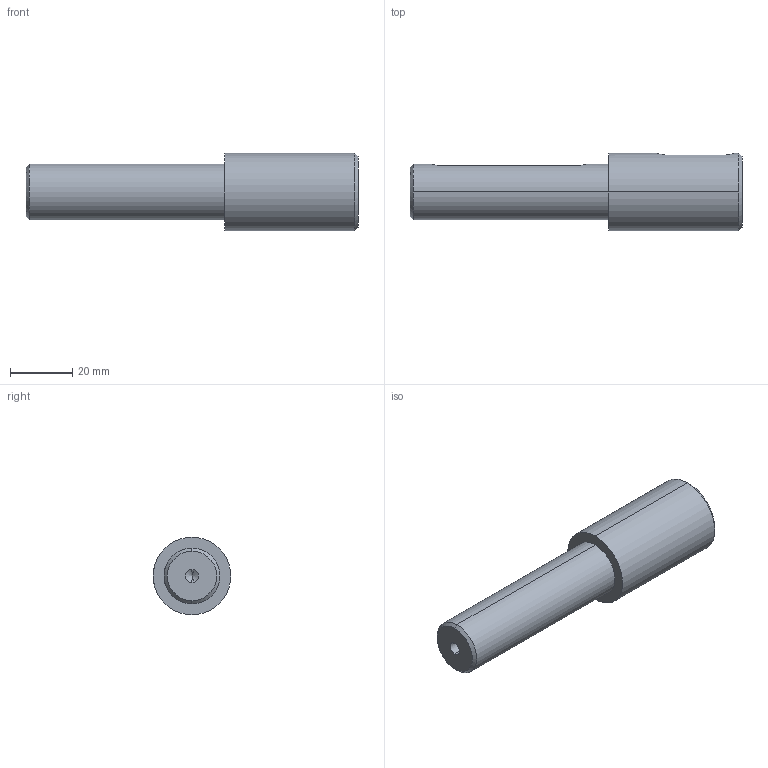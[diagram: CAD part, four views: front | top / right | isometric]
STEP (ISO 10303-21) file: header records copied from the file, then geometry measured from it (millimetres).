
FILE_DESCRIPTION (( 'STEP AP203' ), '1' );
FILE_NAME ('084.813.004.STEP', '2013-01-29T13:20:19', ( 'Alusic' ), ( 'Alusic' ), 'SwSTEP 2.0', 'SolidWorks 2011', '' );
FILE_SCHEMA (( 'CONFIG_CONTROL_DESIGN' ));
Length unit declared in the file: millimetre
Products named in the file (1): 084.813.004
Bounding box: 107 x 25 x 25 mm (x, y, z)
Volume: 35501.7 mm3; surface area: 8551.8 mm2
Topology: 1 solids, 1 shells, 25 faces, 54 edges, 33 vertices
Faces by surface type: cylinder 10, plane 9, cone 6
Entity records: 863 total; most frequent: CARTESIAN_POINT 239, DIRECTION 120, ORIENTED_EDGE 104, EDGE_CURVE 52, AXIS2_PLACEMENT_3D 46, VERTEX_POINT 33, EDGE_LOOP 29, VECTOR 28
